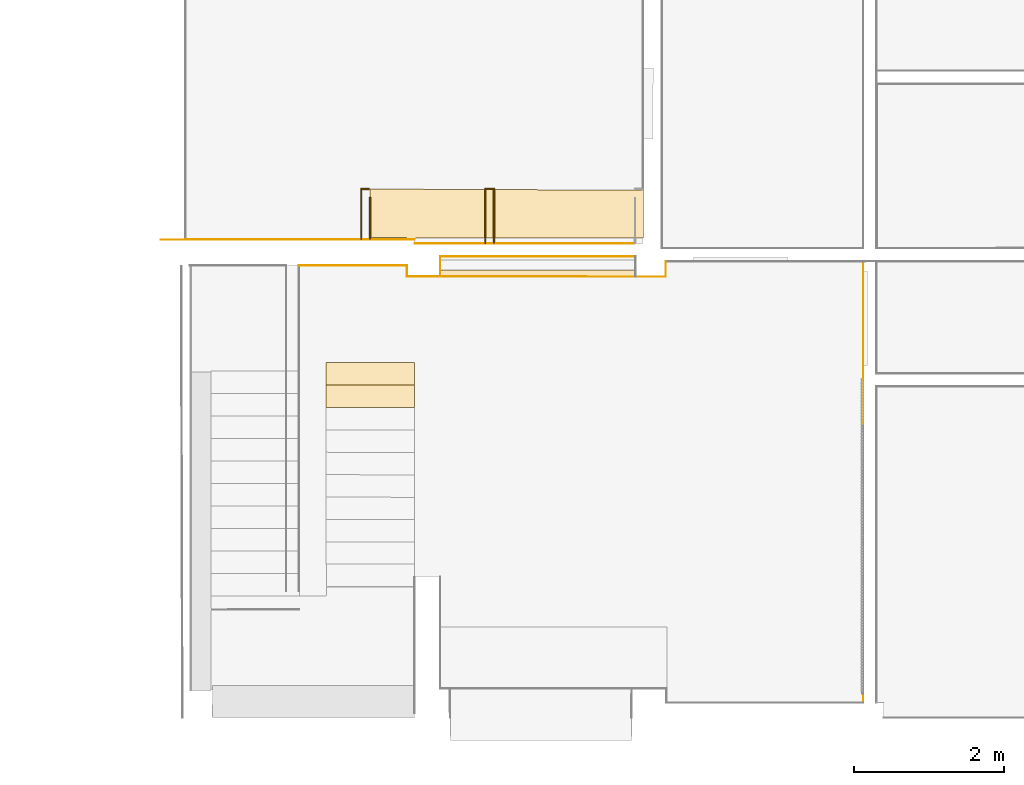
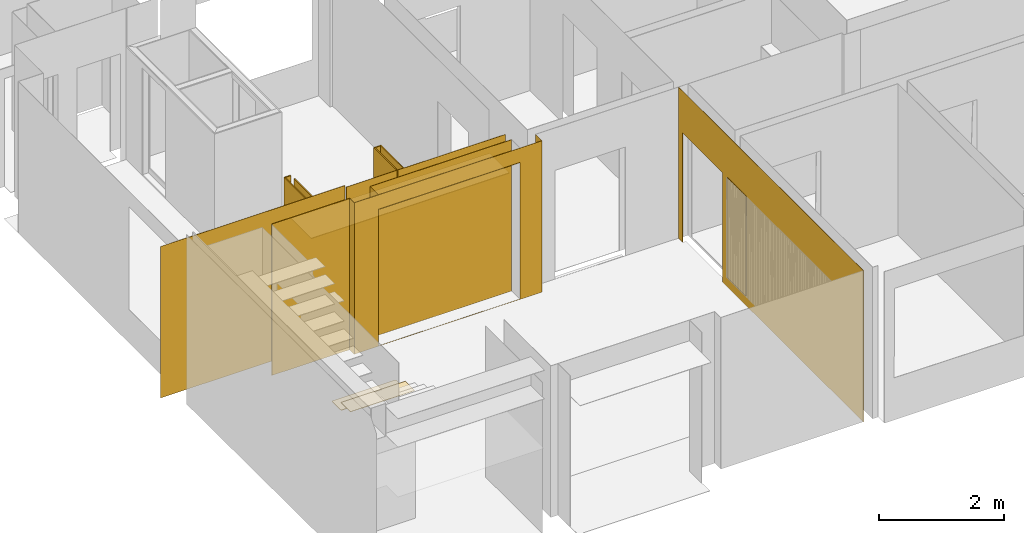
# One storey, part 4 of 33: 20 coverings, 2 openings.
"""IFC2X3 building model written with IfcOpenShell, lengths in millimetres."""

from ifc_helpers import new_model, entity, si_unit, converted_unit, derived_unit, money_unit, direction, frame, origin_with_axes, origin_2d_with_axis, place, context, subcontext, project, spatial, polyline, rectangle, outline, extrude, faceted_brep, source, transform, mapped, material, type_object, element, save


model = new_model("IFC2X3")

# Units and contexts
model_context = context("Model", 3, precision=0.01, world=origin_with_axes(), true_north=direction((0.0, 1.0)))
body_context = subcontext(model_context, "Body", "Model", "MODEL_VIEW")
ifc_project = project(units=[si_unit("LENGTHUNIT", "METRE", prefix="MILLI"), si_unit("AREAUNIT", "SQUARE_METRE"), si_unit("VOLUMEUNIT", "CUBIC_METRE"), converted_unit("PLANEANGLEUNIT", "DEGREE", entity("IfcPlaneAngleMeasure", 0.0174532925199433), si_unit("PLANEANGLEUNIT", "RADIAN"), dimensions=[0, 0, 0, 0, 0, 0, 0]), money_unit("EUR"), converted_unit("TIMEUNIT", "Year", entity("IfcTimeMeasure", 31556926.0), si_unit("TIMEUNIT", "SECOND"), dimensions=[0, 0, 1, 0, 0, 0, 0]), si_unit("MASSUNIT", "GRAM", prefix="KILO"), si_unit("THERMODYNAMICTEMPERATUREUNIT", "DEGREE_CELSIUS"), si_unit("LUMINOUSINTENSITYUNIT", "LUMEN"), si_unit("ENERGYUNIT", "JOULE", prefix="MEGA"), derived_unit("THERMALCONDUCTANCEUNIT", [(si_unit("POWERUNIT", "WATT"), 1), (si_unit("LENGTHUNIT", "METRE"), -1), (si_unit("THERMODYNAMICTEMPERATUREUNIT", "KELVIN"), -1)]), derived_unit("SPECIFICHEATCAPACITYUNIT", [(si_unit("ENERGYUNIT", "JOULE"), 1), (si_unit("MASSUNIT", "GRAM", prefix="KILO"), -1), (si_unit("THERMODYNAMICTEMPERATUREUNIT", "KELVIN"), -1)]), derived_unit("MASSDENSITYUNIT", [(si_unit("MASSUNIT", "GRAM", prefix="KILO"), 1), (si_unit("VOLUMEUNIT", "CUBIC_METRE"), -1)])], contexts=[model_context])

# Site, building, storey
site_placement = place(None, origin_with_axes())
site = spatial("IfcSite", under=ifc_project, at=site_placement, Name="Paldiski mnt 245/1, Tallinn, Harjumaa", CompositionType="COMPLEX")
building_placement = place(site_placement, origin_with_axes())
building = spatial("IfcBuilding", under=site, at=building_placement, Name="RKAS Hoone üldnimetus (kasutust iseloomustav) -> IFC Project Manager -> SOLIBRI", CompositionType="ELEMENT")
storey_placement = place(building_placement, origin_with_axes())
storey = spatial("IfcBuildingStorey", under=building, at=storey_placement, Name="Esimene korrus", CompositionType="ELEMENT", Elevation=0.0)

# Coverings
ifc_material_1 = material(Name="SA- Puitribi SM1(puitribi)")
covering_type_1 = type_object("IfcCoveringType", Name="SA- Puitribi SM1(puitribi)", PredefinedType="CLADDING")
shared_shape = source(origin_with_axes(), body_context, "Body", "Brep", [
    faceted_brep([(-38615.00009801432, -8614.404340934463, 2090.0), (-38615.00009801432, -8014.904340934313, 2090.0), (-38615.00009801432, -8014.904340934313, 149.9999999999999), (-38615.00009801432, -8614.404340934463, 149.9999999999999), (-38605.00009801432, -8614.404340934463, 2090.0), (-38605.00009801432, -8014.904340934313, 2090.0), (-38605.00009801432, -8014.904340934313, 149.9999999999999), (-38605.00009801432, -8614.404340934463, 149.9999999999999)], [[[0, 1, 2, 3]], [[1, 0, 4, 5]], [[2, 1, 5, 6]], [[3, 2, 6, 7]], [[4, 0, 3, 7]], [[5, 4, 7, 6]]]),
])
covering_1_placement = place(storey_placement, frame((0.0, 27.00000000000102, 50.0000000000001), z_axis=(0.0, 0.0, 1.0), x_axis=(1.0, 0.0, 0.0)))
element("IfcCovering", 1, at=covering_1_placement, inside=storey, type_object=covering_type_1, material=ifc_material_1, Name="SM1", PredefinedType="CLADDING", context=body_context, shape_type="MappedRepresentation", body=[
    mapped(shared_shape, transform((0.0, 0.0, 0.0))),
])
ifc_material_2 = material(Name="SA- Värv SM10(tumehall)")
covering_type_2 = type_object("IfcCoveringType", Name="SA- Värv SM10(tumehall) 5", PredefinedType="CLADDING")
covering_2_placement = place(storey_placement, frame((-41240.00000000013, -6619.92207538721, 0.0), z_axis=(0.0, 0.0, 1.0), x_axis=(0.0, 1.0, 0.0)))
element("IfcCovering", 2, at=covering_2_placement, inside=storey, type_object=covering_type_2, material=ifc_material_2, Name="SM10", PredefinedType="CLADDING", context=body_context, shape_type="SweptSolid", body=[
    extrude(outline(polyline([(-5.003609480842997, -5.000000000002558), (199.9220753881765, -5.000000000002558), (204.9220753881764, 0.0), (0.0, 0.0), (-5.003609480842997, -5.000000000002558)])), origin_with_axes(), (0.0, 0.0, 1.0), 2950.0),
])
covering_3_placement = place(storey_placement, frame((-44250.27841829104, -6617.749747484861, 0.0), z_axis=(0.0, 0.0, 1.0), x_axis=(0.001533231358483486, 0.9999988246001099, 0.0)))
element("IfcCovering", 3, at=covering_3_placement, inside=storey, type_object=covering_type_2, material=ifc_material_2, Name="SM10", PredefinedType="CLADDING", context=body_context, shape_type="SweptSolid", body=[
    extrude(outline(polyline([(0.00405472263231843, -5.000000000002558), (262.7673160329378, -4.999999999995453), (267.7596741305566, 0.0), (-3.259734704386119e-06, 0.0), (0.00405472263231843, -5.000000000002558)])), origin_with_axes(), (0.0, 0.0, 1.0), 2950.0),
])

# Covering, opening
covering_4_placement = place(storey_placement, frame((-44690.00285729, -6617.432429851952, 0.0), z_axis=(0.0, 0.0, 1.0), x_axis=(0.9999997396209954, -0.0007216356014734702, 0.0)))
covering_4 = element("IfcCovering", 4, at=covering_4_placement, inside=storey, type_object=covering_type_2, material=ifc_material_2, Name="SM10", PredefinedType="CLADDING", context=body_context, shape_type="SweptSolid", body=[
    extrude(outline(polyline([(-4.999651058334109, -5.000000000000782), (3455.007365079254, -4.999999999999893), (3450.003755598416, 0.0), (0.0, 0.0), (-4.999651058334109, -5.000000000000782)])), origin_with_axes(), (0.0, 0.0, 1.0), 2950.0),
])
opening_1_placement = place(covering_4_placement, frame((44685.21584611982, 6649.680603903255, 0.0), z_axis=(0.0, 0.0, 1.0), x_axis=(0.9999997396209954, 0.0007216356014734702, 0.0)))
element("IfcOpeningElement", 5, at=opening_1_placement, cuts=covering_4, Name="AVA", ObjectType="OPENING", context=body_context, shape_type="SweptSolid", body=[
    extrude(rectangle(XDim=2600.297339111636, YDim=2662.000000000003, at=origin_2d_with_axis()), frame((-42945.1399878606, -6632.411718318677, 1339.000000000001), z_axis=(-0.0007216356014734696, -0.9999997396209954, 0.0), x_axis=(0.9999997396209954, -0.0007216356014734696, 0.0)), (0.0, 0.0, -1.0), 22.46893855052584),
])

# Coverings
covering_5_placement = place(storey_placement, frame((-44689.90743329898, -6471.041811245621, 0.0), z_axis=(0.0, 0.0, 1.0), x_axis=(-0.0006518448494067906, -0.9999997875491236, 0.0)))
element("IfcCovering", 6, at=covering_5_placement, inside=storey, type_object=covering_type_2, material=ifc_material_2, Name="SM10", PredefinedType="CLADDING", context=body_context, shape_type="SweptSolid", body=[
    extrude(outline(polyline([(4.999934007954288, -4.999999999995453), (151.3903007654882, -5.000000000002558), (146.3906497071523, 0.0), (0.0, 0.0), (4.999934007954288, -4.999999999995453)])), origin_with_axes(), (0.0, 0.0, 1.0), 2950.0),
])
covering_6_placement = place(storey_placement, frame((-44249.86788076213, -6349.990388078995, 0.0), z_axis=(0.0, 0.0, 1.0), x_axis=(0.9999999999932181, -3.682914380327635e-06, 0.0)))
element("IfcCovering", 7, at=covering_6_placement, inside=storey, type_object=covering_type_2, material=ifc_material_2, Name="SM10", PredefinedType="CLADDING", context=body_context, shape_type="SweptSolid", body=[
    extrude(outline(polyline([(4.992358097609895, -5.000000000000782), (2604.867919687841, -5.000000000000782), (2609.867901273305, 0.0), (0.0, 0.0), (4.992358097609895, -5.000000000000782)])), origin_with_axes(), (0.0, 0.0, 1.0), 2950.0),
])
ifc_material_3 = material(Name="SA- Värv SM5(valge)")
covering_type_3 = type_object("IfcCoveringType", Name="SA- Värv SM5(valge) 5", PredefinedType="CLADDING")
covering_7_placement = place(storey_placement, frame((-41639.99997823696, -6179.000000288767, 0.0), z_axis=(0.0, 0.0, 1.0), x_axis=(-0.9999999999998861, 4.773653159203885e-07, 0.0)))
element("IfcCovering", 8, at=covering_7_placement, inside=storey, type_object=covering_type_3, material=ifc_material_3, Name="SM5", PredefinedType="CLADDING", context=body_context, shape_type="SweptSolid", body=[
    extrude(outline(polyline([(18.00000238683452, -4.999999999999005), (2945.718032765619, -4.999999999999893), (2945.718032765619, 0.0), (18.00000000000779, 0.0), (18.00000238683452, -4.999999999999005)])), origin_with_axes(), (0.0, 0.0, 1.0), 2950.0),
])
covering_8_placement = place(storey_placement, frame((-44585.73406870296, -6130.0840870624, 0.0), z_axis=(0.0, 0.0, 1.0), x_axis=(-1.0, 0.0, 0.0)))
element("IfcCovering", 9, at=covering_8_placement, inside=storey, type_object=covering_type_3, material=ifc_material_3, Name="SM5", PredefinedType="CLADDING", context=body_context, shape_type="SweptSolid", body=[
    extrude(outline(polyline([(0.0, -4.999999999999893), (3064.265931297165, -4.999999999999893), (3394.265931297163, 0.0), (0.0, 0.0), (0.0, -4.999999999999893)])), origin_with_axes(), (0.0, 0.0, 1.0), 2950.0),
])
covering_9_placement = place(storey_placement, frame((-46130.0000000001, -6470.084087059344, 0.0), z_axis=(0.0, 0.0, 1.0), x_axis=(0.9999997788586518, -0.0006650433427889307, 0.0)))
element("IfcCovering", 10, at=covering_9_placement, inside=storey, type_object=covering_type_3, material=ifc_material_3, Name="SM5", PredefinedType="CLADDING", context=body_context, shape_type="SweptSolid", body=[
    extrude(outline(polyline([(0.003325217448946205, -5.000000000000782), (1435.092951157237, -4.999999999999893), (1440.092885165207, 0.0), (0.0, 0.0), (0.003325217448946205, -5.000000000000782)])), origin_with_axes(), (0.0, 0.0, 1.0), 2950.0),
])

# Covering, opening
covering_10_placement = place(storey_placement, frame((-38600.00008940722, -6414.99999999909, 0.0), z_axis=(0.0, 0.0, 1.0), x_axis=(-1.528746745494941e-09, -1.0, 0.0)))
covering_10 = element("IfcCovering", 11, at=covering_10_placement, inside=storey, type_object=covering_type_3, material=ifc_material_3, Name="SM5", PredefinedType="CLADDING", context=body_context, shape_type="SweptSolid", body=[
    extrude(outline(polyline([(5.000000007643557, -5.000000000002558), (5895.084087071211, -5.000000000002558), (5895.084087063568, 0.0), (4.999999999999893, 0.0), (5.000000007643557, -5.000000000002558)])), origin_with_axes(), (0.0, 0.0, 1.0), 2950.0),
])
opening_2_placement = place(covering_10_placement, frame((-6415.000059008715, 38600.00007960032, 0.0), z_axis=(0.0, 0.0, 1.0), x_axis=(-1.528746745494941e-09, 1.0, 0.0)))
element("IfcOpeningElement", 12, at=opening_2_placement, cuts=covering_10, Name="AVA", ObjectType="OPENING", context=body_context, shape_type="SweptSolid", body=[
    extrude(rectangle(XDim=1280.075935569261, YDim=2133.622121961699, at=origin_2d_with_axis()), frame((-38610.00010743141, -7185.80839152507, 1066.81106098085), z_axis=(-1.0, 1.528746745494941e-09, 0.0), x_axis=(-1.528746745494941e-09, -1.0, 0.0)), (0.0, 0.0, -1.0), 15.00002703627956),
])

# Coverings
ifc_material_4 = material(Name="SA- Laudlagi")
covering_type_4 = type_object("IfcCoveringType", Name="SA- Laudlagi 15", PredefinedType="CEILING")
covering_11_placement = place(storey_placement, frame((-41537.64056134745, -6104.277745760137, 2100.0), z_axis=(0.0, 0.0, 1.0), x_axis=(1.0, 0.0, 0.0)))
element("IfcCovering", 13, at=covering_11_placement, inside=storey, type_object=covering_type_4, material=ifc_material_4, Name="l2", PredefinedType="CEILING", context=body_context, shape_type="SweptSolid", body=[
    extrude(outline(polyline([(0.0, 0.0), (2.218838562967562, 636.6210663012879), (-3646.779555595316, 652.6586220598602), (-3648.979527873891, 2.604002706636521), (0.0, 0.0)])), origin_with_axes(), (0.0, 0.0, 1.0), 15.0),
])
ifc_material_5 = material(Name="SA- PM-5 plaat 30x30")
covering_type_5 = type_object("IfcCoveringType", Name="SA- PM-5 plaat 30x30 8", PredefinedType="FLOORING")
covering_12_placement = place(storey_placement, frame((-45769.80298914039, -8064.623827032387, 307.2727272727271), z_axis=(0.0, 0.0, 1.0), x_axis=(1.0, 0.0, 0.0)))
element("IfcCovering", 14, at=covering_12_placement, inside=storey, type_object=covering_type_5, material=ifc_material_5, Name="PM-5", PredefinedType="FLOORING", context=body_context, shape_type="SweptSolid", body=[
    extrude(outline(polyline([(0.0, 0.0), (-0.1967570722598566, -299.9999354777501), (1179.802989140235, -300.7738466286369), (1179.999746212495, -0.7739111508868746), (0.0, 0.0)])), origin_with_axes(), (0.0, 0.0, 1.0), 8.0),
])
covering_13_placement = place(storey_placement, frame((-45769.80298914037, -7764.623827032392, 153.6363636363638), z_axis=(0.0, 0.0, 1.0), x_axis=(1.0, 0.0, 0.0)))
element("IfcCovering", 15, at=covering_13_placement, inside=storey, type_object=covering_type_5, material=ifc_material_5, Name="PM-5", PredefinedType="FLOORING", context=body_context, shape_type="SweptSolid", body=[
    extrude(outline(polyline([(0.0, 0.0), (-0.1967570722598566, -299.9999354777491), (1179.802989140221, -300.7738466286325), (1179.999746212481, -0.7739111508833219), (0.0, 0.0)])), origin_with_axes(), (0.0, 0.0, 1.0), 8.0),
])
covering_type_6 = type_object("IfcCoveringType", Name="SA- Värv SM10(tumehall) 5", PredefinedType="FLOORING")
covering_14_placement = place(storey_placement, frame((-41644.99998685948, -6624.629814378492, 2665.000000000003), z_axis=(0.0, 0.0, 1.0), x_axis=(1.0, 0.0, 0.0)))
element("IfcCovering", 16, at=covering_14_placement, inside=storey, type_object=covering_type_6, material=ifc_material_2, Name="SM10", PredefinedType="FLOORING", context=body_context, shape_type="SweptSolid", body=[
    extrude(outline(polyline([(0.0, 0.0), (-5.63974111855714e-06, 89.79244303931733), (-2600.152883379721, 89.48161958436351), (-2600.286142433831, 1.876454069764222), (0.0, 0.0)])), origin_with_axes(), (0.0, 0.0, 1.0), 5.0),
])
ifc_material_6 = material(Name="SA- Laudis SM3(vert. laudis)")
covering_type_7 = type_object("IfcCoveringType", Name="SA- Laudis SM3(vert. laudis) 18", PredefinedType="CLADDING")
covering_15_placement = place(storey_placement, frame((-43537.21414897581, -5458.021532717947, 0.0), z_axis=(0.0, 0.0, 1.0), x_axis=(-1.0, 0.0, 0.0)))
element("IfcCovering", 17, at=covering_15_placement, inside=storey, type_object=covering_type_7, material=ifc_material_6, Name="SM14", PredefinedType="CLADDING", context=body_context, shape_type="SweptSolid", body=[
    extrude(outline(polyline([(-18.00000000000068, -18.00000000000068), (118.0000000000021, -17.99999999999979), (100.0000000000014, 0.0), (0.0, 0.0), (-18.00000000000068, -18.00000000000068)])), origin_with_axes(), (0.0, 0.0, 1.0), 2950.0),
])
covering_16_placement = place(storey_placement, frame((-45191.82035997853, -5460.021527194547, 0.0), z_axis=(0.0, 0.0, 1.0), x_axis=(-1.0, 0.0, 0.0)))
element("IfcCovering", 18, at=covering_16_placement, inside=storey, type_object=covering_type_7, material=ifc_material_6, Name="SM14", PredefinedType="CLADDING", context=body_context, shape_type="SweptSolid", body=[
    extrude(outline(polyline([(0.0, -17.99999999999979), (118.2821924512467, -17.99999999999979), (100.282192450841, 0.0), (0.0, 0.0), (0.0, -17.99999999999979)])), origin_with_axes(), (0.0, 0.0, 1.0), 2950.0),
])
covering_17_placement = place(storey_placement, frame((-45191.82035997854, -6130.084087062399, 0.0), z_axis=(0.0, 0.0, 1.0), x_axis=(0.0, 1.0, 0.0)))
element("IfcCovering", 19, at=covering_17_placement, inside=storey, type_object=covering_type_7, material=ifc_material_6, Name="SM14", PredefinedType="CLADDING", context=body_context, shape_type="SweptSolid", body=[
    extrude(outline(polyline([(4.999999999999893, -18.00000000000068), (570.0625599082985, -18.00000000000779), (570.0625598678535, 0.0), (4.999999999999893, 0.0), (4.999999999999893, -18.00000000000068)])), origin_with_axes(), (0.0, 0.0, 1.0), 2950.0),
])
covering_18_placement = place(storey_placement, frame((-45292.10255242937, -5460.02152719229, 0.0), z_axis=(0.0, 0.0, 1.0), x_axis=(0.0, -1.0, 0.0)))
element("IfcCovering", 20, at=covering_18_placement, inside=storey, type_object=covering_type_7, material=ifc_material_6, Name="SM14", PredefinedType="CLADDING", context=body_context, shape_type="SweptSolid", body=[
    extrude(outline(polyline([(-18.00000000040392, -18.00000000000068), (669.0625598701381, -18.00000000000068), (669.0625598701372, 0.0), (0.0, 0.0), (-18.00000000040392, -18.00000000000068)])), origin_with_axes(), (0.0, 0.0, 1.0), 2950.0),
])
covering_19_placement = place(storey_placement, frame((-43637.21414897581, -5458.021532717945, 0.0), z_axis=(0.0, 0.0, 1.0), x_axis=(0.0, -1.0, 0.0)))
element("IfcCovering", 21, at=covering_19_placement, inside=storey, type_object=covering_type_7, material=ifc_material_6, Name="SM14", PredefinedType="CLADDING", context=body_context, shape_type="SweptSolid", body=[
    extrude(outline(polyline([(-17.99999999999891, -18.00000000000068), (721.6670399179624, -18.00000000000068), (721.6670399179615, 0.0), (0.0, 0.0), (-17.99999999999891, -18.00000000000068)])), origin_with_axes(), (0.0, 0.0, 1.0), 2950.0),
])
covering_20_placement = place(storey_placement, frame((-43537.21414897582, -6178.999999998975, 0.0), z_axis=(0.0, 0.0, 1.0), x_axis=(0.0, 1.0, 0.0)))
element("IfcCovering", 22, at=covering_20_placement, inside=storey, type_object=covering_type_7, material=ifc_material_6, Name="SM14", PredefinedType="CLADDING", context=body_context, shape_type="SweptSolid", body=[
    extrude(outline(polyline([(5.000896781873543, -18.00000000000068), (738.9784672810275, -18.00000000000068), (720.9784672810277, 0.0), (5.000905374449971, 0.0), (5.000896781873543, -18.00000000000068)])), origin_with_axes(), (0.0, 0.0, 1.0), 2950.0),
])

save(model, "model.ifc")
